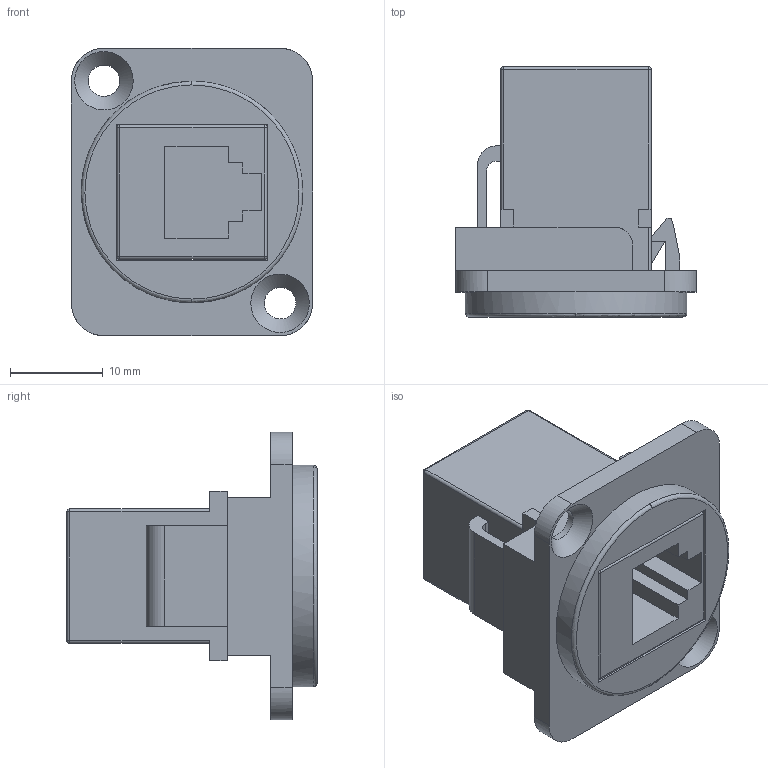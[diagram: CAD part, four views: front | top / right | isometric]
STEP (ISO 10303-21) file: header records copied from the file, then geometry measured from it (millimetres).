
FILE_DESCRIPTION(('FreeCAD Model'),'2;1');
FILE_NAME('Open CASCADE Shape Model','2026-05-18T11:43:54',(''),(''), 'Open CASCADE STEP processor 7.8','FreeCAD','Unknown');
FILE_SCHEMA(('AUTOMOTIVE_DESIGN { 1 0 10303 214 1 1 1 1 }'));
Length unit declared in the file: millimetre
Products named in the file (3): Unnamed; FA-396-6-BK; 3013BUSXLRBK
Assembly tree (2 placements, depth 2):
  Unnamed
    FA-396-6-BK
    3013BUSXLRBK
Bounding box: 26 x 27 x 31 mm (x, y, z)
Volume: 6395 mm3; surface area: 6202 mm2
Topology: 2 solids, 2 shells, 143 faces, 397 edges, 254 vertices
Faces by surface type: plane 61, bspline 56, cylinder 18, sphere 8
Entity records: 5752 total; most frequent: CARTESIAN_POINT 2539, ORIENTED_EDGE 778, DIRECTION 443, EDGE_CURVE 389, VERTEX_POINT 254, LINE 191, VECTOR 191, B_SPLINE_CURVE_WITH_KNOTS 162
